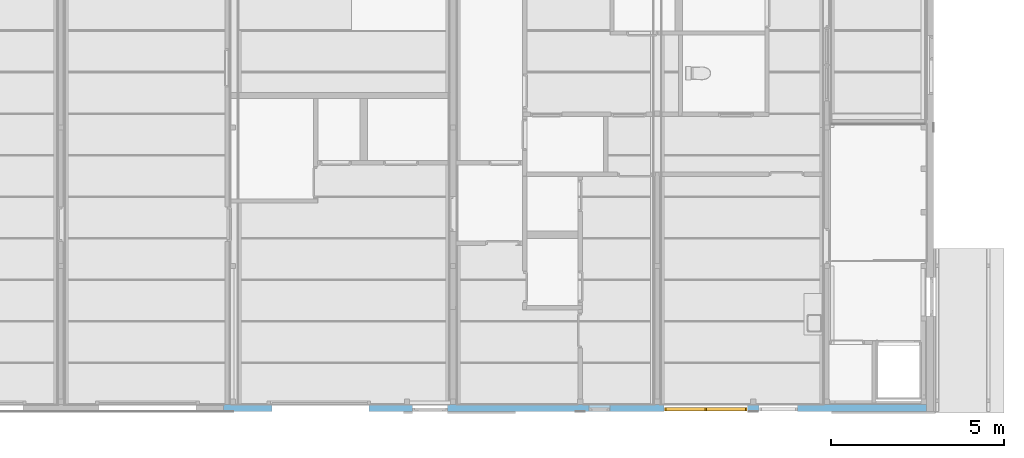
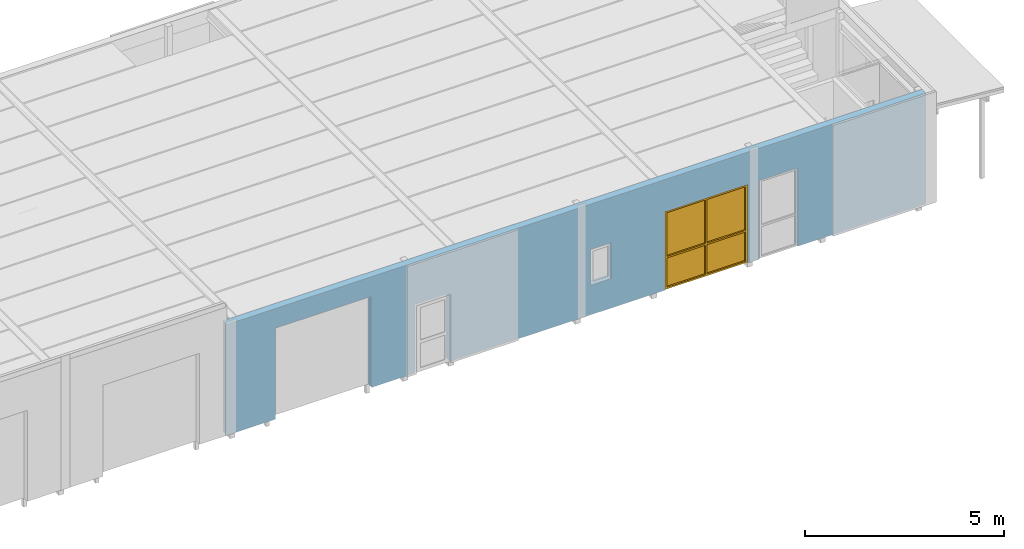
# One storey, part 26 of 45: 1 window, 5 openings, plus 1 element that does not belong to this part.
"""IFC2X3 building model written with IfcOpenShell, lengths in millimetres."""

from ifc_helpers import new_model, entity, si_unit, converted_unit, frame, frame_2d, origin, origin_with_axes, place, context, subcontext, project, spatial, rectangle, extrude, faceted_brep, material, layer, layer_set, layer_usage, type_object, element, fill, save


model = new_model("IFC2X3")

# Units and contexts
model_context = context("Model", 3, precision=1e-05, world=origin())
plan_context = context("Plan", 3, precision=1e-05, world=origin())
body_context = subcontext(model_context, "Body", "Model", "MODEL_VIEW")
ifc_project = project(units=[si_unit("LENGTHUNIT", "METRE", prefix="MILLI"), converted_unit("PLANEANGLEUNIT", "DEGREE", entity("IfcPlaneAngleMeasure", 0.0174532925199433), si_unit("PLANEANGLEUNIT", "RADIAN"), dimensions=[0, 0, 0, 0, 0, 0, 0]), si_unit("AREAUNIT", "SQUARE_METRE"), si_unit("VOLUMEUNIT", "CUBIC_METRE")], contexts=[model_context, plan_context])

# Building, storey
building_placement = place(None, origin())
building = spatial("IfcBuilding", under=ifc_project, at=building_placement, Name="HEKF Administrasjonbygg", CompositionType="ELEMENT")
storey_placement = place(building_placement, frame((0.0, 0.0, 6500.0), z_axis=(0.0, 0.0, 1.0), x_axis=(1.0, 0.0, 0.0)))
storey = spatial("IfcBuildingStorey", under=building, at=storey_placement, Name="Plan 1", CompositionType="ELEMENT", Elevation=6500.0)

# Wall, openings, window
ifc_material_1 = material(Name="Paroc 200")
ifc_layer = layer(ifc_material_1, 200.0)
ifc_layer_set = layer_set([ifc_layer])
ifc_layer_usage = layer_usage(ifc_layer_set, "AXIS2", "POSITIVE", 0.0)
wall_placement = place(storey_placement, frame((30000.0, -12000.0, 0.0), z_axis=(0.0, 0.0, 1.0), x_axis=(-1.0, 8.960538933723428e-17, 0.0)))
wall = element("IfcWallStandardCase", 1, at=wall_placement, inside=storey, material=ifc_layer_usage, context=body_context, shape_type="SweptSolid", body=[
    extrude(rectangle(XDim=20300.00000000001, YDim=200.0, at=frame_2d((10150.0, 100.0), x_axis=(1.0, 0.0))), origin_with_axes(), (0.0, 0.0, 1.0), 3400.0),
])
opening_1_placement = place(wall_placement, frame((3720.0, 0.0, 0.0), z_axis=(0.0, 1.0, 0.0), x_axis=(0.0, 0.0, 1.0)))
element("IfcOpeningElement", 2, at=opening_1_placement, cuts=wall, Name="V003", ObjectType="Opening", context=body_context, shape_type="SweptSolid", body=[
    extrude(rectangle(XDim=2410.0, YDim=1110.0, at=frame_2d((1205.0, 555.0), x_axis=(1.0, 0.0))), origin_with_axes(), (0.0, 0.0, 1.0), 200.0),
])
opening_2_placement = place(wall_placement, frame((9140.0, 0.0, 900.0), z_axis=(0.0, 1.0, 0.0), x_axis=(0.0, 0.0, 1.0)))
element("IfcOpeningElement", 3, at=opening_2_placement, cuts=wall, Name="V001", ObjectType="Opening", context=body_context, shape_type="SweptSolid", body=[
    extrude(rectangle(XDim=1110.0, YDim=610.0, at=frame_2d((555.0, 305.0), x_axis=(1.0, 0.0))), origin_with_axes(), (0.0, 0.0, 1.0), 200.0),
])
opening_3_placement = place(wall_placement, frame((16100.0, -1.818989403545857e-12, 0.0), z_axis=(0.0, 1.0, 0.0), x_axis=(0.0, 0.0, 1.0)))
element("IfcOpeningElement", 4, at=opening_3_placement, cuts=wall, Name="Port03", ObjectType="Opening", context=body_context, shape_type="SweptSolid", body=[
    extrude(rectangle(XDim=2799.999999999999, YDim=2800.0, at=frame_2d((1400.0, 1400.0), x_axis=(1.0, 0.0))), origin_with_axes(), (0.0, 0.0, 1.0), 200.0),
])
opening_4_placement = place(wall_placement, frame((13827.40874621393, -1.818989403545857e-12, 0.0), z_axis=(0.0, 1.0, 0.0), x_axis=(0.0, 0.0, 1.0)))
element("IfcOpeningElement", 5, at=opening_4_placement, cuts=wall, Name="D002", ObjectType="Opening", context=body_context, shape_type="SweptSolid", body=[
    extrude(rectangle(XDim=2100.0, YDim=1010.0, at=frame_2d((1050.0, 505.0), x_axis=(1.0, 0.0))), origin_with_axes(), (0.0, 0.0, 1.0), 200.0),
])
opening_5_placement = place(wall_placement, frame((5170.0, 0.0, 0.0), z_axis=(0.0, 1.0, 0.0), x_axis=(0.0, 0.0, 1.0)))
opening_5 = element("IfcOpeningElement", 6, at=opening_5_placement, cuts=wall, Name="V002", ObjectType="Opening", context=body_context, shape_type="SweptSolid", body=[
    extrude(rectangle(XDim=2410.0, YDim=2410.0, at=frame_2d((1205.0, 1205.0), x_axis=(1.0, 0.0))), origin_with_axes(), (0.0, 0.0, 1.0), 200.0),
])
ifc_material_2 = material()
window_style = type_object("IfcWindowStyle", Name="V102", ConstructionType="NOTDEFINED", OperationType="USERDEFINED", ParameterTakesPrecedence=False, Sizeable=False)
window_placement = place(opening_5_placement, frame((0.0, 0.0, 0.0), z_axis=(1.0, 0.0, 0.0), x_axis=(0.0, 1.0, 0.0)))
window = element("IfcWindow", 7, at=window_placement, inside=storey, type_object=window_style, material=ifc_material_2, Name="V102", OverallHeight=2410.0, OverallWidth=2410.0, context=body_context, shape_type="Brep", body=[
    faceted_brep([(2400.0, 93.99999999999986, 2400.000000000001), (2400.0, 94.0, 9.999999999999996), (2350.0, 94.0, 9.999999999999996), (2350.0, 93.99999999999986, 2400.000000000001), (2400.0, 186.0, 10.0), (2400.0, 185.9999999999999, 2400.000000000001), (2350.0, 185.9999999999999, 2400.000000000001), (2350.0, 186.0, 10.0), (2400.0, 94.0, 9.999999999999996), (2400.0, 93.99999999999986, 2400.000000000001), (2400.0, 185.9999999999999, 2400.000000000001), (2400.0, 186.0, 10.0), (2350.0, 94.0, 9.999999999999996), (2400.0, 94.0, 9.999999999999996), (2400.0, 186.0, 10.0), (2350.0, 186.0, 10.0), (2350.0, 93.99999999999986, 2400.000000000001), (2350.0, 94.0, 9.999999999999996), (2350.0, 186.0, 10.0), (2350.0, 185.9999999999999, 2400.000000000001), (2400.0, 93.99999999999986, 2400.000000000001), (2350.0, 93.99999999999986, 2400.000000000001), (2350.0, 185.9999999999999, 2400.000000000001), (2400.0, 185.9999999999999, 2400.000000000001)], [[[0, 1, 2, 3]], [[4, 5, 6, 7]], [[8, 9, 10, 11]], [[12, 13, 14, 15]], [[16, 17, 18, 19]], [[20, 21, 22, 23]]], orient=[[False], [False], [False], [False], [False], [False]]),
    faceted_brep([(59.99999999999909, 93.99999999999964, 2400.000000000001), (59.99999999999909, 93.99999999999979, 9.999999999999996), (9.99999999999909, 93.99999999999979, 9.999999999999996), (9.99999999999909, 93.99999999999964, 2400.000000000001), (59.99999999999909, 185.9999999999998, 10.0), (59.99999999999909, 185.9999999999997, 2400.000000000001), (9.99999999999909, 185.9999999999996, 2400.000000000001), (9.99999999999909, 185.9999999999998, 10.0), (59.99999999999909, 93.99999999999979, 9.999999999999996), (59.99999999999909, 93.99999999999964, 2400.000000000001), (59.99999999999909, 185.9999999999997, 2400.000000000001), (59.99999999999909, 185.9999999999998, 10.0), (9.99999999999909, 93.99999999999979, 9.999999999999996), (59.99999999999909, 93.99999999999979, 9.999999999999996), (59.99999999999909, 185.9999999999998, 10.0), (9.99999999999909, 185.9999999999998, 10.0), (9.99999999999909, 93.99999999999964, 2400.000000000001), (9.99999999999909, 93.99999999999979, 9.999999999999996), (9.99999999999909, 185.9999999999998, 10.0), (9.99999999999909, 185.9999999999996, 2400.000000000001), (59.99999999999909, 93.99999999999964, 2400.000000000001), (9.99999999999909, 93.99999999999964, 2400.000000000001), (9.99999999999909, 185.9999999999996, 2400.000000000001), (59.99999999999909, 185.9999999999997, 2400.000000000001)], [[[0, 1, 2, 3]], [[4, 5, 6, 7]], [[8, 9, 10, 11]], [[12, 13, 14, 15]], [[16, 17, 18, 19]], [[20, 21, 22, 23]]], orient=[[False], [False], [False], [False], [False], [False]]),
    faceted_brep([(2350.0, 94.0, 60.0), (2350.0, 94.0, 9.999999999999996), (59.99999999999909, 93.99999999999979, 9.999999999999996), (59.99999999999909, 93.99999999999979, 60.0), (2350.0, 186.0, 10.0), (2350.0, 186.0, 60.0), (59.99999999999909, 185.9999999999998, 60.0), (59.99999999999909, 185.9999999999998, 10.0), (2350.0, 94.0, 9.999999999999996), (2350.0, 94.0, 60.0), (2350.0, 186.0, 60.0), (2350.0, 186.0, 10.0), (59.99999999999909, 93.99999999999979, 9.999999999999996), (2350.0, 94.0, 9.999999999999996), (2350.0, 186.0, 10.0), (59.99999999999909, 185.9999999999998, 10.0), (59.99999999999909, 93.99999999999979, 60.0), (59.99999999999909, 93.99999999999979, 9.999999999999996), (59.99999999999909, 185.9999999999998, 10.0), (59.99999999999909, 185.9999999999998, 60.0), (2350.0, 94.0, 60.0), (59.99999999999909, 93.99999999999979, 60.0), (59.99999999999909, 185.9999999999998, 60.0), (2350.0, 186.0, 60.0)], [[[0, 1, 2, 3]], [[4, 5, 6, 7]], [[8, 9, 10, 11]], [[12, 13, 14, 15]], [[16, 17, 18, 19]], [[20, 21, 22, 23]]], orient=[[False], [False], [False], [False], [False], [False]]),
    faceted_brep([(2350.0, 93.99999999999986, 2400.000000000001), (2350.0, 93.99999999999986, 2350.000000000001), (59.99999999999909, 93.99999999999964, 2350.000000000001), (59.99999999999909, 93.99999999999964, 2400.000000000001), (2350.0, 185.9999999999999, 2350.000000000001), (2350.0, 185.9999999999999, 2400.000000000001), (59.99999999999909, 185.9999999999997, 2400.000000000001), (59.99999999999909, 185.9999999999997, 2350.000000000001), (2350.0, 93.99999999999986, 2350.000000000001), (2350.0, 93.99999999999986, 2400.000000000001), (2350.0, 185.9999999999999, 2400.000000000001), (2350.0, 185.9999999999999, 2350.000000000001), (59.99999999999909, 93.99999999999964, 2350.000000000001), (2350.0, 93.99999999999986, 2350.000000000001), (2350.0, 185.9999999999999, 2350.000000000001), (59.99999999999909, 185.9999999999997, 2350.000000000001), (59.99999999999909, 93.99999999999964, 2400.000000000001), (59.99999999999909, 93.99999999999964, 2350.000000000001), (59.99999999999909, 185.9999999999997, 2350.000000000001), (59.99999999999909, 185.9999999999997, 2400.000000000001), (2350.0, 93.99999999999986, 2400.000000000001), (59.99999999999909, 93.99999999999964, 2400.000000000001), (59.99999999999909, 185.9999999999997, 2400.000000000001), (2350.0, 185.9999999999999, 2400.000000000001)], [[[0, 1, 2, 3]], [[4, 5, 6, 7]], [[8, 9, 10, 11]], [[12, 13, 14, 15]], [[16, 17, 18, 19]], [[20, 21, 22, 23]]], orient=[[False], [False], [False], [False], [False], [False]]),
    faceted_brep([(2350.0, 93.99999999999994, 1010.0), (2350.0, 93.99999999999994, 960.0), (59.99999999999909, 93.99999999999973, 960.0), (59.99999999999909, 93.99999999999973, 1010.0), (2350.0, 185.9999999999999, 960.0), (2350.0, 185.9999999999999, 1010.0), (59.99999999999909, 185.9999999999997, 1010.0), (59.99999999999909, 185.9999999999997, 960.0), (2350.0, 93.99999999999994, 960.0), (2350.0, 93.99999999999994, 1010.0), (2350.0, 185.9999999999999, 1010.0), (2350.0, 185.9999999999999, 960.0), (59.99999999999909, 93.99999999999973, 960.0), (2350.0, 93.99999999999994, 960.0), (2350.0, 185.9999999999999, 960.0), (59.99999999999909, 185.9999999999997, 960.0), (59.99999999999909, 93.99999999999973, 1010.0), (59.99999999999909, 93.99999999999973, 960.0), (59.99999999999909, 185.9999999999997, 960.0), (59.99999999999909, 185.9999999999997, 1010.0), (2350.0, 93.99999999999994, 1010.0), (59.99999999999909, 93.99999999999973, 1010.0), (59.99999999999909, 185.9999999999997, 1010.0), (2350.0, 185.9999999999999, 1010.0)], [[[0, 1, 2, 3]], [[4, 5, 6, 7]], [[8, 9, 10, 11]], [[12, 13, 14, 15]], [[16, 17, 18, 19]], [[20, 21, 22, 23]]], orient=[[False], [False], [False], [False], [False], [False]]),
    faceted_brep([(1230.0, 93.99999999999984, 960.0), (1230.0, 93.9999999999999, 60.00000000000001), (1180.0, 93.99999999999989, 60.00000000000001), (1180.0, 93.99999999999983, 960.0), (1230.0, 185.9999999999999, 60.00000000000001), (1230.0, 185.9999999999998, 960.0), (1180.0, 185.9999999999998, 960.0), (1180.0, 185.9999999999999, 60.00000000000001), (1230.0, 93.9999999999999, 60.00000000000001), (1230.0, 93.99999999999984, 960.0), (1230.0, 185.9999999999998, 960.0), (1230.0, 185.9999999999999, 60.00000000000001), (1180.0, 93.99999999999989, 60.00000000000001), (1230.0, 93.9999999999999, 60.00000000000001), (1230.0, 185.9999999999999, 60.00000000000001), (1180.0, 185.9999999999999, 60.00000000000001), (1180.0, 93.99999999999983, 960.0), (1180.0, 93.99999999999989, 60.00000000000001), (1180.0, 185.9999999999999, 60.00000000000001), (1180.0, 185.9999999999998, 960.0), (1230.0, 93.99999999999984, 960.0), (1180.0, 93.99999999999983, 960.0), (1180.0, 185.9999999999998, 960.0), (1230.0, 185.9999999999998, 960.0)], [[[0, 1, 2, 3]], [[4, 5, 6, 7]], [[8, 9, 10, 11]], [[12, 13, 14, 15]], [[16, 17, 18, 19]], [[20, 21, 22, 23]]], orient=[[False], [False], [False], [False], [False], [False]]),
    faceted_brep([(1230.0, 93.99999999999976, 2350.000000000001), (1230.0, 93.99999999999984, 1010.0), (1180.0, 93.99999999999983, 1010.0), (1180.0, 93.99999999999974, 2350.000000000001), (1230.0, 185.9999999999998, 1010.0), (1230.0, 185.9999999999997, 2350.000000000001), (1180.0, 185.9999999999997, 2350.000000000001), (1180.0, 185.9999999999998, 1010.0), (1230.0, 93.99999999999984, 1010.0), (1230.0, 93.99999999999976, 2350.000000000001), (1230.0, 185.9999999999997, 2350.000000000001), (1230.0, 185.9999999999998, 1010.0), (1180.0, 93.99999999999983, 1010.0), (1230.0, 93.99999999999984, 1010.0), (1230.0, 185.9999999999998, 1010.0), (1180.0, 185.9999999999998, 1010.0), (1180.0, 93.99999999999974, 2350.000000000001), (1180.0, 93.99999999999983, 1010.0), (1180.0, 185.9999999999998, 1010.0), (1180.0, 185.9999999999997, 2350.000000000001), (1230.0, 93.99999999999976, 2350.000000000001), (1180.0, 93.99999999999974, 2350.000000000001), (1180.0, 185.9999999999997, 2350.000000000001), (1230.0, 185.9999999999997, 2350.000000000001)], [[[0, 1, 2, 3]], [[4, 5, 6, 7]], [[8, 9, 10, 11]], [[12, 13, 14, 15]], [[16, 17, 18, 19]], [[20, 21, 22, 23]]], orient=[[False], [False], [False], [False], [False], [False]]),
    faceted_brep([(2350.0, 140.0, 60.00000000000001), (1230.0, 139.9999999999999, 60.00000000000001), (1230.0, 139.9999999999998, 960.0), (2350.0, 139.9999999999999, 960.0), (2350.0, 141.0, 60.00000000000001), (2350.0, 140.9999999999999, 960.0), (1230.0, 140.9999999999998, 960.0), (1230.0, 140.9999999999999, 60.00000000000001), (2350.0, 140.0, 60.00000000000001), (2350.0, 141.0, 60.00000000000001), (1230.0, 140.9999999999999, 60.00000000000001), (1230.0, 139.9999999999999, 60.00000000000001), (1230.0, 139.9999999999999, 60.00000000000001), (1230.0, 140.9999999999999, 60.00000000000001), (1230.0, 140.9999999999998, 960.0), (1230.0, 139.9999999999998, 960.0), (1230.0, 139.9999999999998, 960.0), (1230.0, 140.9999999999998, 960.0), (2350.0, 140.9999999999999, 960.0), (2350.0, 139.9999999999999, 960.0), (2350.0, 139.9999999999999, 960.0), (2350.0, 140.9999999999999, 960.0), (2350.0, 141.0, 60.00000000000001), (2350.0, 140.0, 60.00000000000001)], [[[0, 1, 2, 3]], [[4, 5, 6, 7]], [[8, 9, 10, 11]], [[12, 13, 14, 15]], [[16, 17, 18, 19]], [[20, 21, 22, 23]]], orient=[[False], [False], [False], [False], [False], [False]]),
    faceted_brep([(1179.999999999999, 139.9999999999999, 60.00000000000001), (59.99999999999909, 139.9999999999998, 60.00000000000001), (59.99999999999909, 139.9999999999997, 960.0), (1179.999999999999, 139.9999999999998, 960.0), (1179.999999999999, 140.9999999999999, 60.00000000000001), (1179.999999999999, 140.9999999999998, 960.0), (59.99999999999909, 140.9999999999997, 960.0), (59.99999999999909, 140.9999999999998, 60.00000000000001), (1179.999999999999, 139.9999999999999, 60.00000000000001), (1179.999999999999, 140.9999999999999, 60.00000000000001), (59.99999999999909, 140.9999999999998, 60.00000000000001), (59.99999999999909, 139.9999999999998, 60.00000000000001), (59.99999999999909, 139.9999999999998, 60.00000000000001), (59.99999999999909, 140.9999999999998, 60.00000000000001), (59.99999999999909, 140.9999999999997, 960.0), (59.99999999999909, 139.9999999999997, 960.0), (59.99999999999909, 139.9999999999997, 960.0), (59.99999999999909, 140.9999999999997, 960.0), (1179.999999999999, 140.9999999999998, 960.0), (1179.999999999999, 139.9999999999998, 960.0), (1179.999999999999, 139.9999999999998, 960.0), (1179.999999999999, 140.9999999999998, 960.0), (1179.999999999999, 140.9999999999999, 60.00000000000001), (1179.999999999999, 139.9999999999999, 60.00000000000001)], [[[0, 1, 2, 3]], [[4, 5, 6, 7]], [[8, 9, 10, 11]], [[12, 13, 14, 15]], [[16, 17, 18, 19]], [[20, 21, 22, 23]]], orient=[[False], [False], [False], [False], [False], [False]]),
    faceted_brep([(2350.0, 139.9999999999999, 1010.0), (1230.0, 139.9999999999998, 1010.0), (1230.0, 139.9999999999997, 2350.000000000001), (2350.0, 139.9999999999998, 2350.000000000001), (2350.0, 140.9999999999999, 1010.0), (2350.0, 140.9999999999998, 2350.000000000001), (1230.0, 140.9999999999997, 2350.000000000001), (1230.0, 140.9999999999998, 1010.0), (2350.0, 139.9999999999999, 1010.0), (2350.0, 140.9999999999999, 1010.0), (1230.0, 140.9999999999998, 1010.0), (1230.0, 139.9999999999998, 1010.0), (1230.0, 139.9999999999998, 1010.0), (1230.0, 140.9999999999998, 1010.0), (1230.0, 140.9999999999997, 2350.000000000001), (1230.0, 139.9999999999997, 2350.000000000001), (1230.0, 139.9999999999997, 2350.000000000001), (1230.0, 140.9999999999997, 2350.000000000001), (2350.0, 140.9999999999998, 2350.000000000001), (2350.0, 139.9999999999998, 2350.000000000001), (2350.0, 139.9999999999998, 2350.000000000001), (2350.0, 140.9999999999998, 2350.000000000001), (2350.0, 140.9999999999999, 1010.0), (2350.0, 139.9999999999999, 1010.0)], [[[0, 1, 2, 3]], [[4, 5, 6, 7]], [[8, 9, 10, 11]], [[12, 13, 14, 15]], [[16, 17, 18, 19]], [[20, 21, 22, 23]]], orient=[[False], [False], [False], [False], [False], [False]]),
    faceted_brep([(1179.999999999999, 139.9999999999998, 1010.0), (59.99999999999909, 139.9999999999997, 1010.0), (59.99999999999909, 139.9999999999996, 2350.000000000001), (1179.999999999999, 139.9999999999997, 2350.000000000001), (1179.999999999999, 140.9999999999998, 1010.0), (1179.999999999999, 140.9999999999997, 2350.000000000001), (59.99999999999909, 140.9999999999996, 2350.000000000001), (59.99999999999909, 140.9999999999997, 1010.0), (1179.999999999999, 139.9999999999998, 1010.0), (1179.999999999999, 140.9999999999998, 1010.0), (59.99999999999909, 140.9999999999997, 1010.0), (59.99999999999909, 139.9999999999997, 1010.0), (59.99999999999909, 139.9999999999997, 1010.0), (59.99999999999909, 140.9999999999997, 1010.0), (59.99999999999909, 140.9999999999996, 2350.000000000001), (59.99999999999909, 139.9999999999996, 2350.000000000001), (59.99999999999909, 139.9999999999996, 2350.000000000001), (59.99999999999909, 140.9999999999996, 2350.000000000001), (1179.999999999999, 140.9999999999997, 2350.000000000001), (1179.999999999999, 139.9999999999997, 2350.000000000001), (1179.999999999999, 139.9999999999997, 2350.000000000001), (1179.999999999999, 140.9999999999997, 2350.000000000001), (1179.999999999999, 140.9999999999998, 1010.0), (1179.999999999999, 139.9999999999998, 1010.0)], [[[0, 1, 2, 3]], [[4, 5, 6, 7]], [[8, 9, 10, 11]], [[12, 13, 14, 15]], [[16, 17, 18, 19]], [[20, 21, 22, 23]]], orient=[[False], [False], [False], [False], [False], [False]]),
])
fill(opening_5, window)

save(model, "model.ifc")
